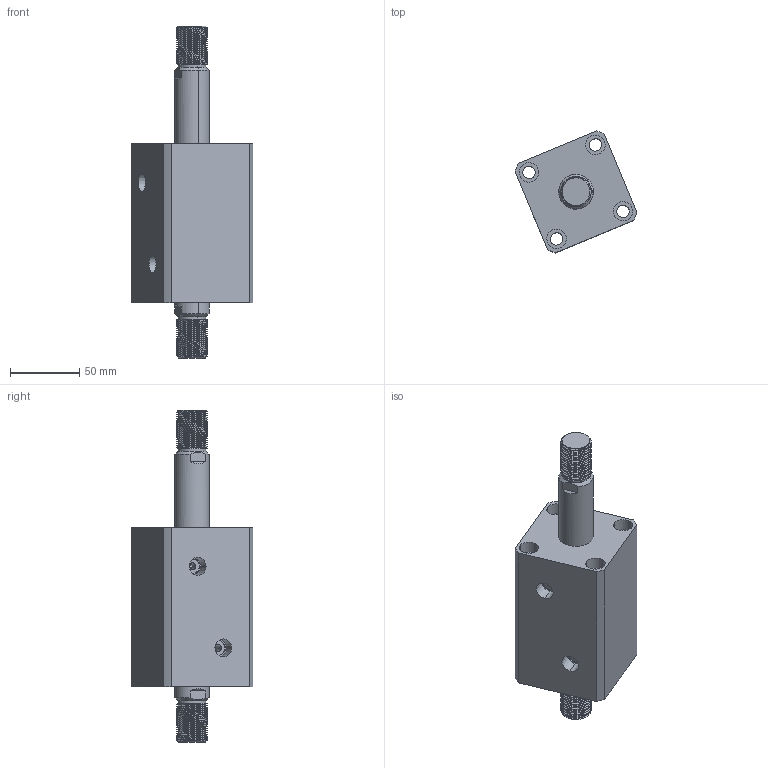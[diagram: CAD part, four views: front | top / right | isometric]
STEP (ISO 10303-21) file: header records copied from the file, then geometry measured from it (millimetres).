
FILE_DESCRIPTION (( 'STEP AP214' ), '1' );
FILE_NAME ('chtb-sw40x45w_asm.STEP', '2018-06-08T10:07:33', ( 'Windows' ), ( 'Microsoft' ), 'SwSTEP 2.0', 'SolidWorks 2015', '' );
FILE_SCHEMA (( 'AUTOMOTIVE_DESIGN' ));
Length unit declared in the file: millimetre
Products named in the file (4): CHTB-SW40X45NHSG; CHTB-SW40X45NBT; CHTB-SD40QG; chtb-sw40x45w_asm
Assembly tree (3 placements, depth 2):
  chtb-sw40x45w_asm
    CHTB-SD40QG
    CHTB-SW40X45NBT
    CHTB-SW40X45NHSG
Bounding box: 88.11 x 88.11 x 240 mm (x, y, z)
Volume: 536981.9 mm3; surface area: 102640.7 mm2
Topology: 3 solids, 3 shells, 254 faces, 680 edges, 452 vertices
Faces by surface type: cylinder 160, plane 46, bspline 18, cone 18, torus 12
Entity records: 17389 total; most frequent: CARTESIAN_POINT 11402, ORIENTED_EDGE 1348, DIRECTION 1094, EDGE_CURVE 674, VERTEX_POINT 452, AXIS2_PLACEMENT_3D 443, EDGE_LOOP 296, ADVANCED_FACE 254
